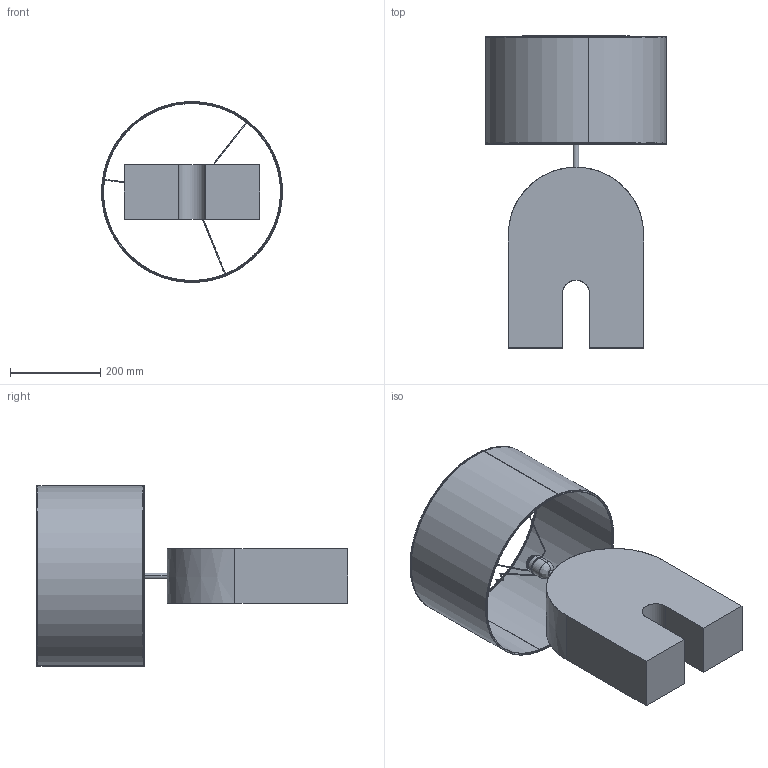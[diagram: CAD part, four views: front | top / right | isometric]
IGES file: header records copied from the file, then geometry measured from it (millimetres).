
Start section: SolidWorks IGES file using analytic representation for surfaces
Global section: file name: C:\Users\Agus\Desktop\AROMAS\PROPUESTAS ENERO 2020\nac118\NAC118.IGS; native system: SolidWorks 2018; preprocessor: SolidWorks 2018; author: Agus; date: 200406.164642; units: millimetre
Bounding box: 399.77 x 690 x 399.98 mm (x, y, z)
Surface area: 1040690.9 mm2 (no closed solid volume)
Topology: 0 solids, 0 shells, 175 faces, 2857 edges, 2857 vertices
Faces by surface type: revolution 103, bspline 72
